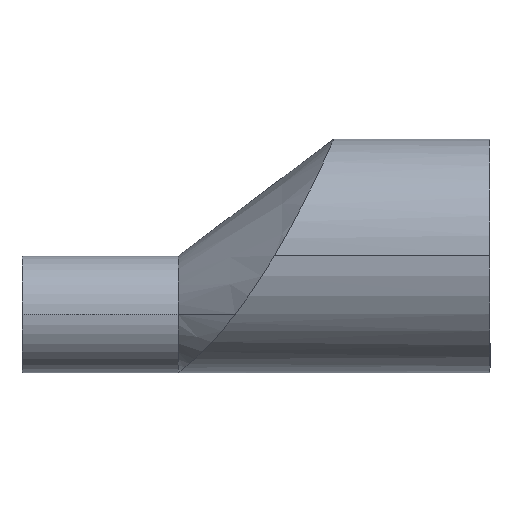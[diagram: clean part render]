
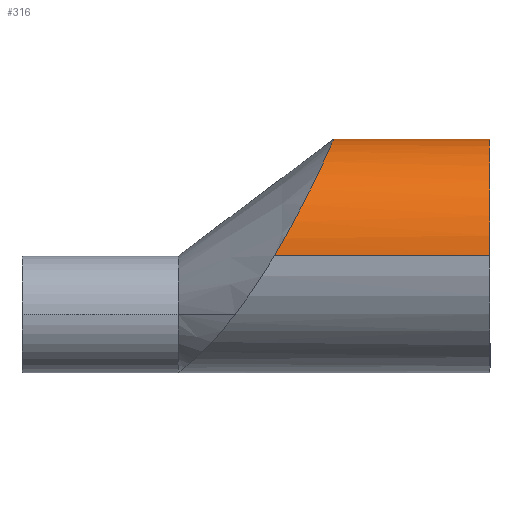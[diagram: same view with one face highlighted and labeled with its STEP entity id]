
A CAD part, top view. The second image highlights one B-rep face of the part: STEP entity #316.
In plain terms, the highlighted cylindrical face has radius 19.05 mm (diameter 38.1 mm), a partial arc.
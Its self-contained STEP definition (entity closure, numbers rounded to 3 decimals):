
#3 = VECTOR ( 'NONE', #506, 1000. ) ;
#12 = CARTESIAN_POINT ( 'NONE',  ( -26.237, 17.187, -8.241 ) ) ;
#15 = CARTESIAN_POINT ( 'NONE',  ( -31.157, 7.075, 17.69 ) ) ;
#38 = CARTESIAN_POINT ( 'NONE',  ( -25.434, 18.974, 1.729 ) ) ;
#59 = CARTESIAN_POINT ( 'NONE',  ( 0., 0., 0. ) ) ;
#62 = EDGE_CURVE ( 'NONE', #654, #249, #368, .T. ) ;
#70 = CARTESIAN_POINT ( 'NONE',  ( -27.382, 14.705, 12.127 ) ) ;
#71 = CARTESIAN_POINT ( 'NONE',  ( -30.724, 7.906, 17.334 ) ) ;
#80 = CARTESIAN_POINT ( 'NONE',  ( -27.777, 13.867, 13.078 ) ) ;
#91 = CARTESIAN_POINT ( 'NONE',  ( -27.989, 13.42, 13.535 ) ) ;
#93 = CIRCLE ( 'NONE', #204, 19.05 ) ;
#104 = VECTOR ( 'NONE', #240, 1000. ) ;
#107 = CARTESIAN_POINT ( 'NONE',  ( -76.2, 0., -19.05 ) ) ;
#108 = CARTESIAN_POINT ( 'NONE',  ( -28.652, 12.039, 14.817 ) ) ;
#112 = CARTESIAN_POINT ( 'NONE',  ( -29.13, 11.06, 15.558 ) ) ;
#143 = CARTESIAN_POINT ( 'NONE',  ( -25.482, 18.866, 2.726 ) ) ;
#153 = CARTESIAN_POINT ( 'NONE',  ( 0., 0., 19.05 ) ) ;
#161 = LINE ( 'NONE', #107, #104 ) ;
#185 = EDGE_CURVE ( 'NONE', #654, #551, #288, .T. ) ;
#187 = CARTESIAN_POINT ( 'NONE',  ( -76.2, 0., 0. ) ) ;
#193 = CARTESIAN_POINT ( 'NONE',  ( -32.5, 4.551, 18.534 ) ) ;
#201 = CARTESIAN_POINT ( 'NONE',  ( 0., 0., -19.05 ) ) ;
#204 = AXIS2_PLACEMENT_3D ( 'NONE', #59, #409, #625 ) ;
#207 = CARTESIAN_POINT ( 'NONE',  ( -35.102, 0., 19.05 ) ) ;
#214 = CARTESIAN_POINT ( 'NONE',  ( -26.37, 16.896, -8.824 ) ) ;
#240 = DIRECTION ( 'NONE',  ( 1., 0., 0. ) ) ;
#249 = VERTEX_POINT ( 'NONE', #272 ) ;
#272 = CARTESIAN_POINT ( 'NONE',  ( -35.102, 0., -19.05 ) ) ;
#285 = CARTESIAN_POINT ( 'NONE',  ( -29.902, 9.516, 16.514 ) ) ;
#288 = LINE ( 'NONE', #623, #3 ) ;
#292 = CARTESIAN_POINT ( 'NONE',  ( -35.102, 0., -19.05 ) ) ;
#298 = DIRECTION ( 'NONE',  ( 1., 0., 0. ) ) ;
#311 = EDGE_CURVE ( 'NONE', #249, #583, #161, .T. ) ;
#316 = ADVANCED_FACE ( 'NONE', ( #414 ), #546, .T. ) ;
#319 = CARTESIAN_POINT ( 'NONE',  ( -34.422, 1.14, -19.05 ) ) ;
#323 = CARTESIAN_POINT ( 'NONE',  ( -33.753, 2.304, -18.946 ) ) ;
#328 = CARTESIAN_POINT ( 'NONE',  ( -32.477, 4.593, -18.525 ) ) ;
#331 = CARTESIAN_POINT ( 'NONE',  ( -31.866, 5.725, -18.209 ) ) ;
#334 = CARTESIAN_POINT ( 'NONE',  ( -30.987, 7.399, -17.565 ) ) ;
#336 = CARTESIAN_POINT ( 'NONE',  ( -25.898, 17.935, 6.555 ) ) ;
#340 = CARTESIAN_POINT ( 'NONE',  ( -30.699, 7.955, -17.32 ) ) ;
#364 = CARTESIAN_POINT ( 'NONE',  ( -30.143, 9.04, -16.78 ) ) ;
#368 = B_SPLINE_CURVE_WITH_KNOTS ( 'NONE', 3,
 ( #207, #615, #581, #193, #589, #15, #646, #71, #537, #595, #285, #112, #108, #91, #80, #70, #575, #572, #607, #336, #630, #516, #143, #38, #567, #545, #529, #472, #470, #460, #447, #444, #441, #439, #436, #12, #214, #486, #640, #420, #394, #391, #418, #385, #381, #376, #364, #340, #334, #331, #328, #323, #319, #292 ),
 .UNSPECIFIED., .F., .F.,
 ( 4, 2, 2, 2, 2, 2, 2, 2, 2, 2, 2, 2, 2, 2, 2, 2, 2, 2, 2, 2, 2, 2, 2, 2, 2, 2, 4 ),
 ( 0.045, 0.049, 0.053, 0.054, 0.055, 0.057, 0.061, 0.063, 0.065, 0.069, 0.073, 0.075, 0.076, 0.077, 0.081, 0.082, 0.083, 0.085, 0.087, 0.089, 0.093, 0.095, 0.097, 0.099, 0.1, 0.104, 0.108 ),
 .UNSPECIFIED. ) ;
#376 = CARTESIAN_POINT ( 'NONE',  ( -29.875, 9.57, -16.483 ) ) ;
#381 = CARTESIAN_POINT ( 'NONE',  ( -29.358, 10.605, -15.837 ) ) ;
#385 = CARTESIAN_POINT ( 'NONE',  ( -29.109, 11.11, -15.488 ) ) ;
#391 = CARTESIAN_POINT ( 'NONE',  ( -28.396, 12.572, -14.326 ) ) ;
#394 = CARTESIAN_POINT ( 'NONE',  ( -27.734, 13.953, -13.031 ) ) ;
#397 = ORIENTED_EDGE ( 'NONE', *, *, #185, .T. ) ;
#409 = DIRECTION ( 'NONE',  ( 1., 0., 0. ) ) ;
#414 = FACE_OUTER_BOUND ( 'NONE', #557, .T. ) ;
#418 = CARTESIAN_POINT ( 'NONE',  ( -28.628, 12.092, -14.733 ) ) ;
#420 = CARTESIAN_POINT ( 'NONE',  ( -27.342, 14.788, -12.078 ) ) ;
#434 = ORIENTED_EDGE ( 'NONE', *, *, #311, .F. ) ;
#436 = CARTESIAN_POINT ( 'NONE',  ( -26., 17.711, -7.047 ) ) ;
#439 = CARTESIAN_POINT ( 'NONE',  ( -25.895, 17.942, -6.435 ) ) ;
#441 = CARTESIAN_POINT ( 'NONE',  ( -25.76, 18.243, -5.495 ) ) ;
#444 = CARTESIAN_POINT ( 'NONE',  ( -25.719, 18.336, -5.178 ) ) ;
#447 = CARTESIAN_POINT ( 'NONE',  ( -25.643, 18.505, -4.536 ) ) ;
#457 = ORIENTED_EDGE ( 'NONE', *, *, #596, .F. ) ;
#460 = CARTESIAN_POINT ( 'NONE',  ( -25.609, 18.582, -4.211 ) ) ;
#470 = CARTESIAN_POINT ( 'NONE',  ( -25.457, 18.921, -2.58 ) ) ;
#472 = CARTESIAN_POINT ( 'NONE',  ( -25.398, 19.054, -1.264 ) ) ;
#486 = CARTESIAN_POINT ( 'NONE',  ( -26.664, 16.252, -9.96 ) ) ;
#506 = DIRECTION ( 'NONE',  ( 1., 0., 0. ) ) ;
#515 = AXIS2_PLACEMENT_3D ( 'NONE', #187, #298, #594 ) ;
#516 = CARTESIAN_POINT ( 'NONE',  ( -25.529, 18.759, 3.379 ) ) ;
#529 = CARTESIAN_POINT ( 'NONE',  ( -25.401, 19.049, 0.395 ) ) ;
#535 = CARTESIAN_POINT ( 'NONE',  ( -35.102, 0., 19.05 ) ) ;
#537 = CARTESIAN_POINT ( 'NONE',  ( -30.584, 8.179, 17.207 ) ) ;
#538 = ORIENTED_EDGE ( 'NONE', *, *, #62, .F. ) ;
#545 = CARTESIAN_POINT ( 'NONE',  ( -25.405, 19.039, 0.728 ) ) ;
#546 = CYLINDRICAL_SURFACE ( 'NONE', #515, 19.05 ) ;
#551 = VERTEX_POINT ( 'NONE', #153 ) ;
#557 = EDGE_LOOP ( 'NONE', ( #538, #397, #457, #434 ) ) ;
#567 = CARTESIAN_POINT ( 'NONE',  ( -25.421, 19.002, 1.394 ) ) ;
#572 = CARTESIAN_POINT ( 'NONE',  ( -26.681, 16.214, 10.081 ) ) ;
#575 = CARTESIAN_POINT ( 'NONE',  ( -27.197, 15.1, 11.631 ) ) ;
#581 = CARTESIAN_POINT ( 'NONE',  ( -33.764, 2.284, 18.948 ) ) ;
#583 = VERTEX_POINT ( 'NONE', #201 ) ;
#589 = CARTESIAN_POINT ( 'NONE',  ( -31.891, 5.678, 18.223 ) ) ;
#594 = DIRECTION ( 'NONE',  ( 0., 0., -1. ) ) ;
#595 = CARTESIAN_POINT ( 'NONE',  ( -30.169, 8.989, 16.807 ) ) ;
#596 = EDGE_CURVE ( 'NONE', #583, #551, #93, .T. ) ;
#607 = CARTESIAN_POINT ( 'NONE',  ( -26.385, 16.86, 8.965 ) ) ;
#615 = CARTESIAN_POINT ( 'NONE',  ( -34.42, 1.144, 19.05 ) ) ;
#623 = CARTESIAN_POINT ( 'NONE',  ( -76.2, 0., 19.05 ) ) ;
#625 = DIRECTION ( 'NONE',  ( 0., 0., -1. ) ) ;
#630 = CARTESIAN_POINT ( 'NONE',  ( -25.716, 18.343, 5.309 ) ) ;
#640 = CARTESIAN_POINT ( 'NONE',  ( -26.825, 15.902, -10.509 ) ) ;
#646 = CARTESIAN_POINT ( 'NONE',  ( -31.011, 7.355, 17.576 ) ) ;
#654 = VERTEX_POINT ( 'NONE', #535 ) ;
